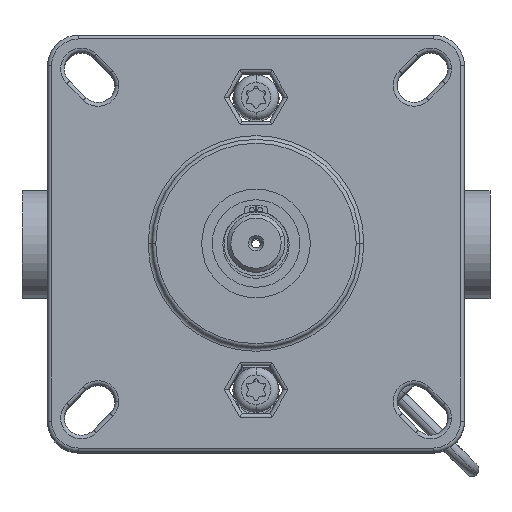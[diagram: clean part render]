
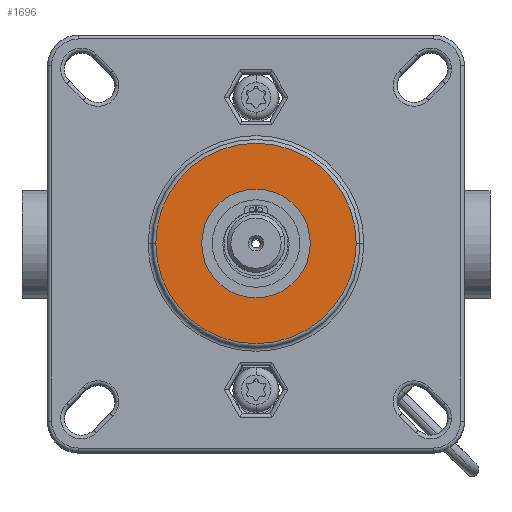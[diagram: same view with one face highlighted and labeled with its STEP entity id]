
A CAD part, top view. The second image highlights one B-rep face of the part: STEP entity #1696.
In plain terms, the highlighted planar face has unit normal (0, 0, 1).
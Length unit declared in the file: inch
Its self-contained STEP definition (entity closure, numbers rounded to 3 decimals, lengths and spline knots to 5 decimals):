
#1692 = EDGE_CURVE ( 'NONE', #3967, #3957, #10162, .T. ) ;
#1696 = ADVANCED_FACE ( 'NONE', ( #10120, #10119 ), #10118, .F. ) ;
#1697 = EDGE_LOOP ( 'NONE', ( #1698, #1700 ) ) ;
#1698 = ORIENTED_EDGE ( 'NONE', *, *, #1699, .T. ) ;
#1699 = EDGE_CURVE ( 'NONE', #3945, #3956, #10113, .T. ) ;
#1700 = ORIENTED_EDGE ( 'NONE', *, *, #3946, .T. ) ;
#1701 = EDGE_LOOP ( 'NONE', ( #1702, #1703 ) ) ;
#1702 = ORIENTED_EDGE ( 'NONE', *, *, #1692, .T. ) ;
#1703 = ORIENTED_EDGE ( 'NONE', *, *, #4000, .T. ) ;
#3945 = VERTEX_POINT ( 'NONE', #11612 ) ;
#3946 = EDGE_CURVE ( 'NONE', #3956, #3945, #11611, .T. ) ;
#3956 = VERTEX_POINT ( 'NONE', #11574 ) ;
#3957 = VERTEX_POINT ( 'NONE', #11573 ) ;
#3967 = VERTEX_POINT ( 'NONE', #11754 ) ;
#4000 = EDGE_CURVE ( 'NONE', #3957, #3967, #11816, .T. ) ;
#10109 = DIRECTION ( 'NONE',  ( 1., 0., 0. ) ) ;
#10110 = DIRECTION ( 'NONE',  ( 0., 0., 1. ) ) ;
#10111 = CARTESIAN_POINT ( 'NONE',  ( 0., 0., 0.539 ) ) ;
#10112 = AXIS2_PLACEMENT_3D ( 'NONE', #10111, #10110, #10109 ) ;
#10113 = CIRCLE ( 'NONE', #10112, 0.8115 ) ;
#10114 = DIRECTION ( 'NONE',  ( 1., 0., 0. ) ) ;
#10115 = DIRECTION ( 'NONE',  ( 0., 0., -1. ) ) ;
#10116 = CARTESIAN_POINT ( 'NONE',  ( 0., 0., 0.539 ) ) ;
#10117 = AXIS2_PLACEMENT_3D ( 'NONE', #10116, #10115, #10114 ) ;
#10118 = PLANE ( 'NONE',  #10117 ) ;
#10119 = FACE_BOUND ( 'NONE', #1701, .T. ) ;
#10120 = FACE_OUTER_BOUND ( 'NONE', #1697, .T. ) ;
#10159 = DIRECTION ( 'NONE',  ( 1., 0., 0. ) ) ;
#10160 = DIRECTION ( 'NONE',  ( 0., 0., -1. ) ) ;
#10161 = AXIS2_PLACEMENT_3D ( 'NONE', #10167, #10160, #10159 ) ;
#10162 = CIRCLE ( 'NONE', #10161, 0.44 ) ;
#10167 = CARTESIAN_POINT ( 'NONE',  ( 0., 0., 0.539 ) ) ;
#11573 = CARTESIAN_POINT ( 'NONE',  ( -0.44, 0., 0.539 ) ) ;
#11574 = CARTESIAN_POINT ( 'NONE',  ( -0.8115, 0., 0.539 ) ) ;
#11607 = DIRECTION ( 'NONE',  ( 1., 0., 0. ) ) ;
#11608 = DIRECTION ( 'NONE',  ( 0., 0., 1. ) ) ;
#11609 = CARTESIAN_POINT ( 'NONE',  ( 0., 0., 0.539 ) ) ;
#11610 = AXIS2_PLACEMENT_3D ( 'NONE', #11609, #11608, #11607 ) ;
#11611 = CIRCLE ( 'NONE', #11610, 0.8115 ) ;
#11612 = CARTESIAN_POINT ( 'NONE',  ( 0.8115, 0., 0.539 ) ) ;
#11754 = CARTESIAN_POINT ( 'NONE',  ( 0.44, 0., 0.539 ) ) ;
#11816 = CIRCLE ( 'NONE', #11878, 0.44 ) ;
#11875 = DIRECTION ( 'NONE',  ( 1., 0., 0. ) ) ;
#11876 = DIRECTION ( 'NONE',  ( 0., 0., -1. ) ) ;
#11877 = CARTESIAN_POINT ( 'NONE',  ( 0., 0., 0.539 ) ) ;
#11878 = AXIS2_PLACEMENT_3D ( 'NONE', #11877, #11876, #11875 ) ;
